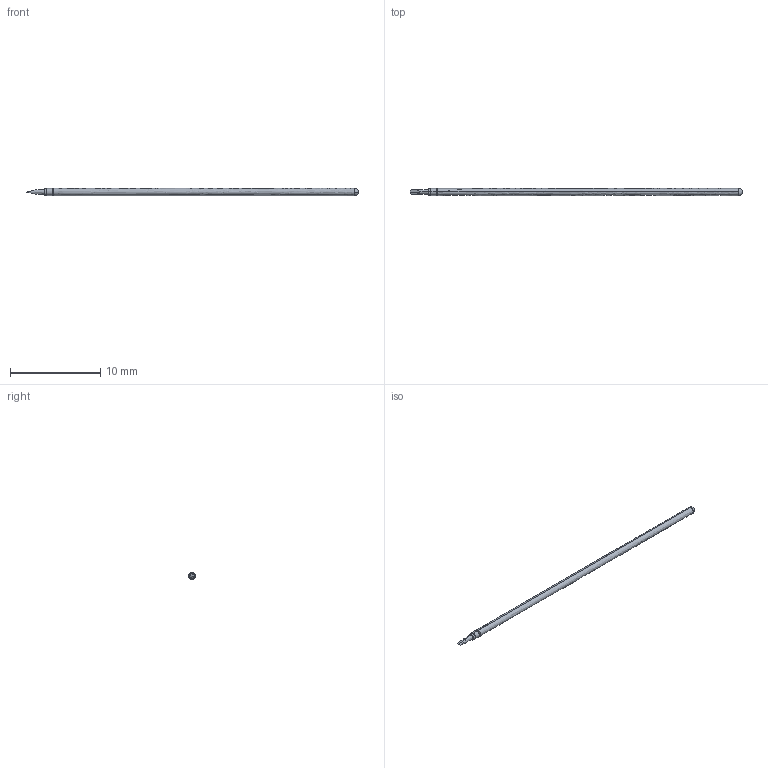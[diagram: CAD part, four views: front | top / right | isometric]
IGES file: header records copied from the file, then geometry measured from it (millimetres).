
Start section: SolidWorks IGES file using analytic representation for surfaces
Global section: file name: L:\probe solid model mockups\Solidworks models\POGO-72I Full.IGS; native system: SolidWorks 2006 by SolidWorks Corporation; preprocessor: SolidWorks 2006 by SolidWorks Corporation; author: Ksnyder; date: 071211.135731; units: inch
Bounding box: 36.83 x 0.79 x 0.79 mm (x, y, z)
Surface area: 172 mm2
Topology: 1 solids, 1 shells, 22 faces, 48 edges, 27 vertices
Faces by surface type: revolution 16, plane 6
